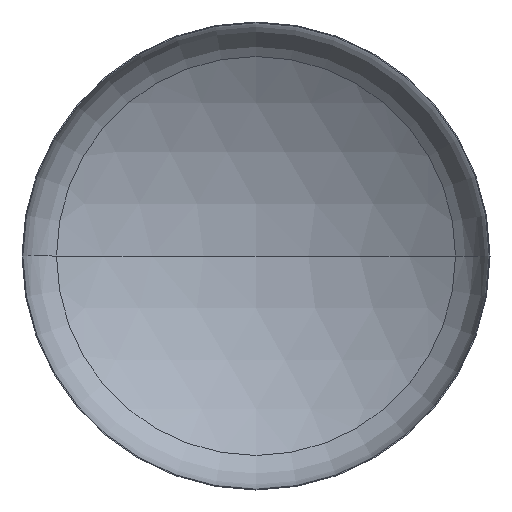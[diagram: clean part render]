
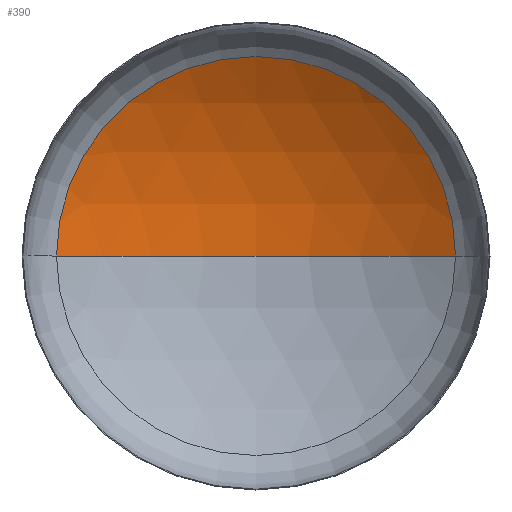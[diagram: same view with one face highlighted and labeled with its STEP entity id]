
A CAD part, front view. The second image highlights one B-rep face of the part: STEP entity #390.
In plain terms, the highlighted spherical face has radius 5600 mm.
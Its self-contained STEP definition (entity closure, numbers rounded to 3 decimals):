
#2 = DIRECTION ( 'NONE',  ( 0., 0., 1. ) ) ;
#9 = CARTESIAN_POINT ( 'NONE',  ( 0., -3785.171, 0. ) ) ;
#10 = VERTEX_POINT ( 'NONE', #380 ) ;
#30 = ORIENTED_EDGE ( 'NONE', *, *, #156, .T. ) ;
#43 = ORIENTED_EDGE ( 'NONE', *, *, #157, .T. ) ;
#73 = AXIS2_PLACEMENT_3D ( 'NONE', #9, #2, #356 ) ;
#81 = AXIS2_PLACEMENT_3D ( 'NONE', #119, #107, #103 ) ;
#85 = AXIS2_PLACEMENT_3D ( 'NONE', #213, #183, #184 ) ;
#95 = VERTEX_POINT ( 'NONE', #252 ) ;
#103 = DIRECTION ( 'NONE',  ( -1., 0., 0. ) ) ;
#105 = ORIENTED_EDGE ( 'NONE', *, *, #160, .F. ) ;
#107 = DIRECTION ( 'NONE',  ( 0., 0., -1. ) ) ;
#119 = CARTESIAN_POINT ( 'NONE',  ( 0., -3785.171, 0. ) ) ;
#125 = VERTEX_POINT ( 'NONE', #321 ) ;
#151 = EDGE_LOOP ( 'NONE', ( #105, #43, #30 ) ) ;
#156 = EDGE_CURVE ( 'NONE', #125, #10, #330, .T. ) ;
#157 = EDGE_CURVE ( 'NONE', #95, #125, #274, .T. ) ;
#160 = EDGE_CURVE ( 'NONE', #95, #10, #207, .T. ) ;
#183 = DIRECTION ( 'NONE',  ( 0., -1., 0. ) ) ;
#184 = DIRECTION ( 'NONE',  ( 1., 0., 0. ) ) ;
#207 = CIRCLE ( 'NONE', #73, 5600. ) ;
#213 = CARTESIAN_POINT ( 'NONE',  ( 0., 953.979, 0. ) ) ;
#219 = FACE_OUTER_BOUND ( 'NONE', #151, .T. ) ;
#222 = AXIS2_PLACEMENT_3D ( 'NONE', #404, #289, #308 ) ;
#252 = CARTESIAN_POINT ( 'NONE',  ( 0., 1814.829, 0. ) ) ;
#274 = CIRCLE ( 'NONE', #81, 5600. ) ;
#275 = SPHERICAL_SURFACE ( 'NONE', #222, 5600. ) ;
#289 = DIRECTION ( 'NONE',  ( 0., 0., -1. ) ) ;
#308 = DIRECTION ( 'NONE',  ( -1., 0., 0. ) ) ;
#321 = CARTESIAN_POINT ( 'NONE',  ( 2983.363, 953.979, 0. ) ) ;
#330 = CIRCLE ( 'NONE', #85, 2983.363 ) ;
#356 = DIRECTION ( 'NONE',  ( 1., 0., 0. ) ) ;
#380 = CARTESIAN_POINT ( 'NONE',  ( -2983.363, 953.979, 0. ) ) ;
#390 = ADVANCED_FACE ( 'NONE', ( #219 ), #275, .F. ) ;
#404 = CARTESIAN_POINT ( 'NONE',  ( 0., -3785.171, 0. ) ) ;
